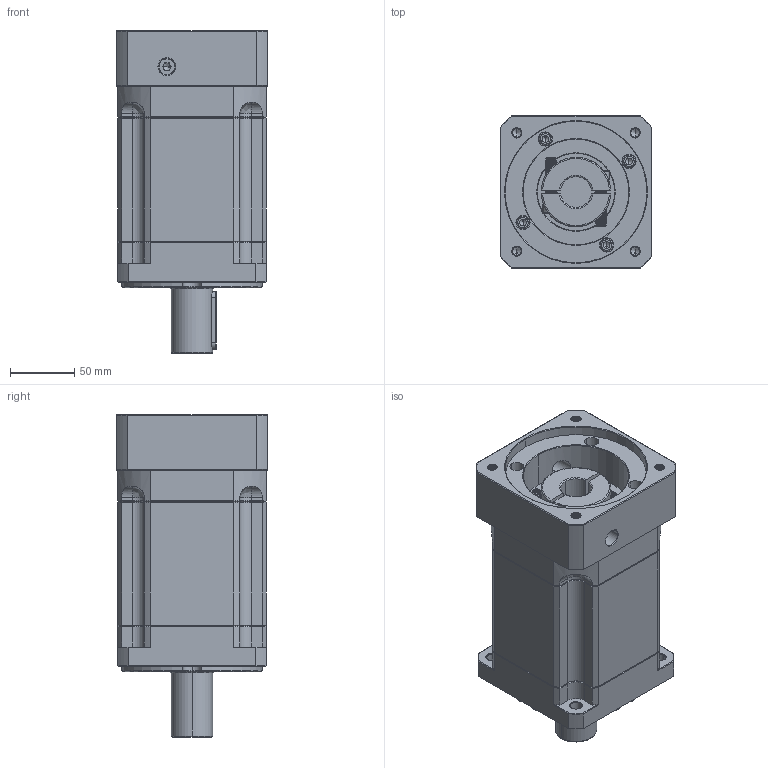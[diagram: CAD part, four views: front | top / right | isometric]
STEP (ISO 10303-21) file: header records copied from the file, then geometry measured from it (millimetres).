
FILE_DESCRIPTION (( 'STEP AP214' ), '1' );
FILE_NAME ('ZB115A-D32-L3-P2-24-110-130-M8.step', '2023-08-26T06:32:51', ( '' ), ( '' ), 'SwSTEP 2.0', 'SolidWorks 2016', '' );
FILE_SCHEMA (( 'AUTOMOTIVE_DESIGN' ));
Length unit declared in the file: millimetre
Products named in the file (1): ZB115A-D32-L3-P2-24-110-130-M8
Bounding box: 118 x 118 x 250.5 mm (x, y, z)
Volume: 2218726.1 mm3; surface area: 195003.3 mm2
Topology: 6 solids, 6 shells, 2396 faces, 6287 edges, 3991 vertices
Faces by surface type: plane 1144, cylinder 441, bspline 423, cone 368, torus 20
Entity records: 129476 total; most frequent: CARTESIAN_POINT 47676, ORIENTED_EDGE 12506, DIRECTION 9906, EDGE_CURVE 6253, VECTOR 3998, LINE 3998, VERTEX_POINT 3991, AXIS2_PLACEMENT_3D 2954
